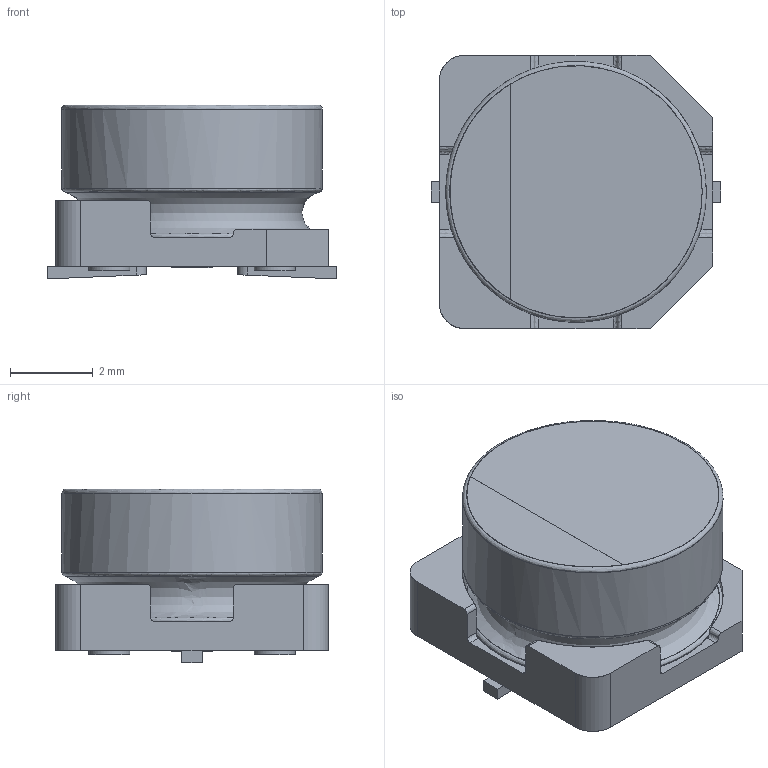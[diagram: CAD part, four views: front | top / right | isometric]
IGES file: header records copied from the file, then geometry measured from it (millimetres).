
Start section: JAMA-IS VERSION  1.0
Bounding box: 7 x 6.6 x 4.2 mm (x, y, z)
Surface area: 267.6 mm2 (no closed solid volume)
Topology: 0 solids, 0 shells, 74 faces, 994 edges, 976 vertices
Faces by surface type: bspline 74
